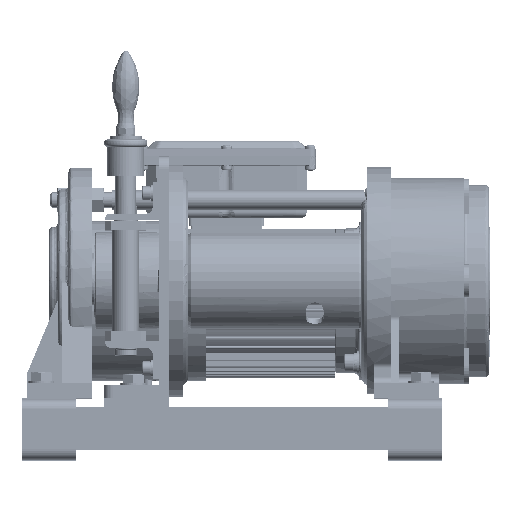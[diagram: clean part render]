
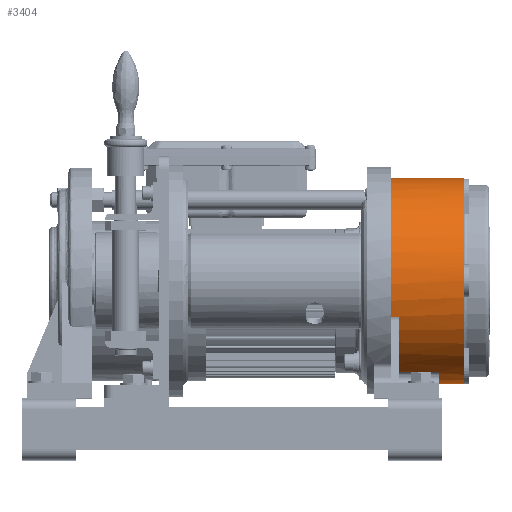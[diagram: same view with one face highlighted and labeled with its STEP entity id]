
A CAD part, top view. The second image highlights one B-rep face of the part: STEP entity #3404.
In plain terms, the highlighted cylindrical face has radius 95 mm (diameter 190 mm), a partial arc.
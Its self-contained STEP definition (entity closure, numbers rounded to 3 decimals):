
#3404=ADVANCED_FACE('',(#37267,#37268),#37266,.T.);
#37266=CYLINDRICAL_SURFACE('',#80454,95.);
#37267=FACE_OUTER_BOUND('',#80455,.T.);
#37268=FACE_BOUND('',#80456,.T.);
#80451=CARTESIAN_POINT('',(-92.519,16.846,-51.481));
#80452=DIRECTION('',(-1.,0.,0.));
#80453=DIRECTION('',(0.,-1.,0.));
#80454=AXIS2_PLACEMENT_3D('',#80451,#80452,#80453);
#80455=EDGE_LOOP('',(#110710,#110711,#110712,#110713,#110714,#110715,#110716,#110717,#110718,#110719,#110720));
#80456=EDGE_LOOP('',(#110721,#110722,#110723,#110724));
#110710=ORIENTED_EDGE('',*,*,#128450,.T.);
#110711=ORIENTED_EDGE('',*,*,#128451,.T.);
#110712=ORIENTED_EDGE('',*,*,#128452,.T.);
#110713=ORIENTED_EDGE('',*,*,#128453,.T.);
#110714=ORIENTED_EDGE('',*,*,#128454,.F.);
#110715=ORIENTED_EDGE('',*,*,#120567,.T.);
#110716=ORIENTED_EDGE('',*,*,#120555,.T.);
#110717=ORIENTED_EDGE('',*,*,#120560,.T.);
#110718=ORIENTED_EDGE('',*,*,#120559,.F.);
#110719=ORIENTED_EDGE('',*,*,#120569,.T.);
#110720=ORIENTED_EDGE('',*,*,#128455,.T.);
#110721=ORIENTED_EDGE('',*,*,#120547,.F.);
#110722=ORIENTED_EDGE('',*,*,#120579,.F.);
#110723=ORIENTED_EDGE('',*,*,#120581,.T.);
#110724=ORIENTED_EDGE('',*,*,#120584,.F.);
#120547=EDGE_CURVE('',#142475,#142482,#142483,.T.);
#120555=EDGE_CURVE('',#142534,#142527,#142535,.T.);
#120559=EDGE_CURVE('',#142554,#142547,#142561,.T.);
#120560=EDGE_CURVE('',#142527,#142547,#142567,.T.);
#120567=EDGE_CURVE('',#142615,#142534,#142616,.T.);
#120569=EDGE_CURVE('',#142554,#142628,#142629,.T.);
#120579=EDGE_CURVE('',#142688,#142475,#142695,.T.);
#120581=EDGE_CURVE('',#142688,#142707,#142708,.T.);
#120584=EDGE_CURVE('',#142482,#142707,#142726,.T.);
#128450=EDGE_CURVE('',#195226,#195227,#195228,.T.);
#128451=EDGE_CURVE('',#195227,#195234,#195235,.T.);
#128452=EDGE_CURVE('',#195234,#195241,#195242,.T.);
#128453=EDGE_CURVE('',#195241,#195248,#195249,.T.);
#128454=EDGE_CURVE('',#142615,#195248,#195255,.T.);
#128455=EDGE_CURVE('',#142628,#195226,#195261,.T.);
#142475=VERTEX_POINT('',#222966);
#142482=VERTEX_POINT('',#222971);
#142483=CIRCLE('',#222975,95.);
#142527=VERTEX_POINT('',#222997);
#142534=VERTEX_POINT('',#223002);
#142535=LINE('',#223003,#223004);
#142547=VERTEX_POINT('',#223010);
#142554=VERTEX_POINT('',#223015);
#142561=LINE('',#223020,#223021);
#142567=CIRCLE('',#223026,95.);
#142615=VERTEX_POINT('',#223057);
#142616=CIRCLE('',#223061,95.);
#142628=VERTEX_POINT('',#223065);
#142629=CIRCLE('',#223069,95.);
#142688=VERTEX_POINT('',#223103);
#142695=LINE('',#223108,#223109);
#142707=VERTEX_POINT('',#223114);
#142708=CIRCLE('',#223118,95.);
#142726=LINE('',#223126,#223127);
#195226=VERTEX_POINT('',#265097);
#195227=VERTEX_POINT('',#265098);
#195228=CIRCLE('',#265102,95.);
#195234=VERTEX_POINT('',#265103);
#195235=CIRCLE('',#265107,95.);
#195241=VERTEX_POINT('',#265108);
#195242=CIRCLE('',#265112,95.);
#195248=VERTEX_POINT('',#265113);
#195249=CIRCLE('',#265117,95.);
#195255=LINE('',#265118,#265119);
#195261=LINE('',#265121,#265122);
#222966=CARTESIAN_POINT('',(-94.519,-69.126,-11.06));
#222971=CARTESIAN_POINT('',(-94.519,-67.597,-7.957));
#222972=CARTESIAN_POINT('',(-94.519,16.846,-51.481));
#222973=DIRECTION('',(-1.,0.,0.));
#222974=DIRECTION('',(0.,1.,0.));
#222975=AXIS2_PLACEMENT_3D('',#222972,#222973,#222974);
#222997=CARTESIAN_POINT('',(-131.519,-16.324,37.54));
#223002=CARTESIAN_POINT('',(-139.519,-16.324,37.54));
#223003=CARTESIAN_POINT('',(-139.519,-16.324,37.54));
#223004=VECTOR('',#223005,8.);
#223005=DIRECTION('',(1.,0.,0.));
#223010=CARTESIAN_POINT('',(-131.519,-66.867,-6.569));
#223015=CARTESIAN_POINT('',(-139.519,-66.867,-6.569));
#223020=CARTESIAN_POINT('',(-139.519,-66.867,-6.569));
#223021=VECTOR('',#223022,8.);
#223022=DIRECTION('',(1.,0.,0.));
#223023=CARTESIAN_POINT('',(-131.519,16.846,-51.481));
#223024=DIRECTION('',(1.,0.,0.));
#223025=DIRECTION('',(0.,-1.,0.));
#223026=AXIS2_PLACEMENT_3D('',#223023,#223024,#223025);
#223057=CARTESIAN_POINT('',(-139.519,111.846,-51.481));
#223058=CARTESIAN_POINT('',(-139.519,16.846,-51.481));
#223059=DIRECTION('',(1.,0.,0.));
#223060=DIRECTION('',(0.,-1.,0.));
#223061=AXIS2_PLACEMENT_3D('',#223058,#223059,#223060);
#223065=CARTESIAN_POINT('',(-139.519,-78.154,-51.481));
#223066=CARTESIAN_POINT('',(-139.519,16.846,-51.481));
#223067=DIRECTION('',(1.,0.,0.));
#223068=DIRECTION('',(0.,-1.,0.));
#223069=AXIS2_PLACEMENT_3D('',#223066,#223067,#223068);
#223103=CARTESIAN_POINT('',(-131.519,-69.126,-11.06));
#223108=CARTESIAN_POINT('',(-131.519,-69.126,-11.06));
#223109=VECTOR('',#223110,37.);
#223110=DIRECTION('',(1.,0.,0.));
#223114=CARTESIAN_POINT('',(-131.519,-67.597,-7.957));
#223115=CARTESIAN_POINT('',(-131.519,16.846,-51.481));
#223116=DIRECTION('',(-1.,0.,0.));
#223117=DIRECTION('',(0.,1.,0.));
#223118=AXIS2_PLACEMENT_3D('',#223115,#223116,#223117);
#223126=CARTESIAN_POINT('',(-94.519,-67.597,-7.957));
#223127=VECTOR('',#223128,37.);
#223128=DIRECTION('',(-1.,0.,0.));
#265097=CARTESIAN_POINT('',(-71.519,-78.154,-51.481));
#265098=CARTESIAN_POINT('',(-71.519,-77.793,-43.202));
#265099=CARTESIAN_POINT('',(-71.519,16.846,-51.481));
#265100=DIRECTION('',(-1.,0.,0.));
#265101=DIRECTION('',(0.,1.,0.));
#265102=AXIS2_PLACEMENT_3D('',#265099,#265100,#265101);
#265103=CARTESIAN_POINT('',(-71.519,16.846,43.519));
#265104=CARTESIAN_POINT('',(-71.519,16.846,-51.481));
#265105=DIRECTION('',(-1.,0.,0.));
#265106=DIRECTION('',(0.,1.,0.));
#265107=AXIS2_PLACEMENT_3D('',#265104,#265105,#265106);
#265108=CARTESIAN_POINT('',(-71.519,111.484,-43.202));
#265109=CARTESIAN_POINT('',(-71.519,16.846,-51.481));
#265110=DIRECTION('',(-1.,0.,0.));
#265111=DIRECTION('',(0.,1.,0.));
#265112=AXIS2_PLACEMENT_3D('',#265109,#265110,#265111);
#265113=CARTESIAN_POINT('',(-71.519,111.846,-51.481));
#265114=CARTESIAN_POINT('',(-71.519,16.846,-51.481));
#265115=DIRECTION('',(-1.,0.,0.));
#265116=DIRECTION('',(0.,1.,0.));
#265117=AXIS2_PLACEMENT_3D('',#265114,#265115,#265116);
#265118=CARTESIAN_POINT('',(-139.519,111.846,-51.481));
#265119=VECTOR('',#265120,68.);
#265120=DIRECTION('',(1.,0.,0.));
#265121=CARTESIAN_POINT('',(-139.519,-78.154,-51.481));
#265122=VECTOR('',#265123,68.);
#265123=DIRECTION('',(1.,0.,0.));
